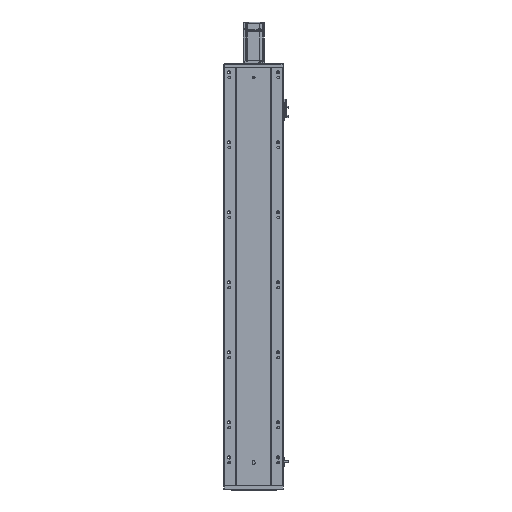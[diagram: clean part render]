
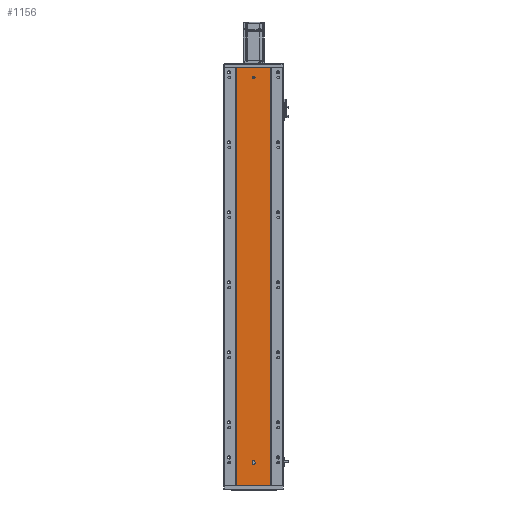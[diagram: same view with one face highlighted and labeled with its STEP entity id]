
A CAD part, front view. The second image highlights one B-rep face of the part: STEP entity #1156.
In plain terms, the highlighted planar face has unit normal (0, -1, 0).
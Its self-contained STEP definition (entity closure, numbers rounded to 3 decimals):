
#108 = DIRECTION ( 'NONE',  ( 0., -1., 0. ) ) ;
#112 = EDGE_CURVE ( 'NONE', #33330, #65255, #42202, .T. ) ;
#1156 = ADVANCED_FACE ( 'NONE', ( #51319, #13394, #30165 ), #16349, .F. ) ;
#2211 = ORIENTED_EDGE ( 'NONE', *, *, #19401, .F. ) ;
#2244 = DIRECTION ( 'NONE',  ( 0., 0., -1. ) ) ;
#3218 = CARTESIAN_POINT ( 'NONE',  ( 132.47, 79.476, 64.5 ) ) ;
#4716 = VERTEX_POINT ( 'NONE', #28763 ) ;
#7590 = LINE ( 'NONE', #49564, #48870 ) ;
#8369 = DIRECTION ( 'NONE',  ( 0., -1., 0. ) ) ;
#8595 = LINE ( 'NONE', #16939, #9404 ) ;
#8983 = EDGE_CURVE ( 'NONE', #34479, #56407, #56234, .T. ) ;
#9404 = VECTOR ( 'NONE', #54644, 1000. ) ;
#9636 = VERTEX_POINT ( 'NONE', #67468 ) ;
#10486 = CARTESIAN_POINT ( 'NONE',  ( 185.97, 79.476, 0. ) ) ;
#11828 = CIRCLE ( 'NONE', #56577, 4. ) ;
#11972 = ORIENTED_EDGE ( 'NONE', *, *, #36847, .F. ) ;
#13394 = FACE_BOUND ( 'NONE', #28721, .T. ) ;
#13535 = CARTESIAN_POINT ( 'NONE',  ( 86.97, 79.476, 796. ) ) ;
#13562 = ORIENTED_EDGE ( 'NONE', *, *, #40622, .F. ) ;
#14123 = LINE ( 'NONE', #65425, #35991 ) ;
#15660 = CARTESIAN_POINT ( 'NONE',  ( 136.47, 79.476, 1166. ) ) ;
#16344 = CARTESIAN_POINT ( 'NONE',  ( 185.97, 79.476, 796. ) ) ;
#16349 = PLANE ( 'NONE',  #30503 ) ;
#16939 = CARTESIAN_POINT ( 'NONE',  ( 0., 79.476, 1194. ) ) ;
#17669 = EDGE_LOOP ( 'NONE', ( #53897, #46839, #2211, #19654 ) ) ;
#18271 = DIRECTION ( 'NONE',  ( 0., 0., -1. ) ) ;
#18913 = ORIENTED_EDGE ( 'NONE', *, *, #61980, .F. ) ;
#19401 = EDGE_CURVE ( 'NONE', #4716, #29766, #8595, .T. ) ;
#19654 = ORIENTED_EDGE ( 'NONE', *, *, #36835, .T. ) ;
#19855 = CARTESIAN_POINT ( 'NONE',  ( 185.97, 79.476, 1194. ) ) ;
#20378 = DIRECTION ( 'NONE',  ( 0., -1., 0. ) ) ;
#20777 = AXIS2_PLACEMENT_3D ( 'NONE', #23384, #34457, #2244 ) ;
#22424 = VERTEX_POINT ( 'NONE', #51761 ) ;
#23384 = CARTESIAN_POINT ( 'NONE',  ( 136.47, 79.476, 64.5 ) ) ;
#23864 = CARTESIAN_POINT ( 'NONE',  ( 86.97, 79.476, 398. ) ) ;
#24093 = CARTESIAN_POINT ( 'NONE',  ( 86.97, 79.476, 1194. ) ) ;
#25756 = LINE ( 'NONE', #55946, #50300 ) ;
#26204 = B_SPLINE_CURVE_WITH_KNOTS ( 'NONE', 3,
 ( #24093, #13535, #23864, #35197 ),
 .UNSPECIFIED., .F., .F.,
 ( 4, 4 ),
 ( 0., 1. ),
 .UNSPECIFIED. ) ;
#27112 = CARTESIAN_POINT ( 'NONE',  ( 185.97, 79.476, 1194. ) ) ;
#28066 = DIRECTION ( 'NONE',  ( 0., 0., -1. ) ) ;
#28721 = EDGE_LOOP ( 'NONE', ( #11972, #49396 ) ) ;
#28763 = CARTESIAN_POINT ( 'NONE',  ( 86.97, 79.476, 1194. ) ) ;
#28897 = CARTESIAN_POINT ( 'NONE',  ( 185.97, 79.476, 0. ) ) ;
#29266 = CARTESIAN_POINT ( 'NONE',  ( 136.47, 79.476, 1166. ) ) ;
#29766 = VERTEX_POINT ( 'NONE', #19855 ) ;
#30165 = FACE_OUTER_BOUND ( 'NONE', #17669, .T. ) ;
#30503 = AXIS2_PLACEMENT_3D ( 'NONE', #50229, #33710, #34167 ) ;
#33330 = VERTEX_POINT ( 'NONE', #3218 ) ;
#33710 = DIRECTION ( 'NONE',  ( 0., 1., 0. ) ) ;
#34167 = DIRECTION ( 'NONE',  ( 0., 0., 1. ) ) ;
#34276 = B_SPLINE_CURVE_WITH_KNOTS ( 'NONE', 3,
 ( #27112, #16344, #43615, #10486 ),
 .UNSPECIFIED., .F., .F.,
 ( 4, 4 ),
 ( 0., 1. ),
 .UNSPECIFIED. ) ;
#34457 = DIRECTION ( 'NONE',  ( 0., -1., 0. ) ) ;
#34479 = VERTEX_POINT ( 'NONE', #56517 ) ;
#35197 = CARTESIAN_POINT ( 'NONE',  ( 86.97, 79.476, 0. ) ) ;
#35991 = VECTOR ( 'NONE', #28066, 1000. ) ;
#36530 = DIRECTION ( 'NONE',  ( 0., 0., -1. ) ) ;
#36626 = DIRECTION ( 'NONE',  ( 0., 0., -1. ) ) ;
#36702 = ORIENTED_EDGE ( 'NONE', *, *, #112, .F. ) ;
#36835 = EDGE_CURVE ( 'NONE', #4716, #63007, #26204, .T. ) ;
#36847 = EDGE_CURVE ( 'NONE', #22424, #54574, #39837, .T. ) ;
#37762 = DIRECTION ( 'NONE',  ( 0., 0., -1. ) ) ;
#39386 = DIRECTION ( 'NONE',  ( 0., 0., 1. ) ) ;
#39537 = AXIS2_PLACEMENT_3D ( 'NONE', #45394, #20378, #36626 ) ;
#39837 = CIRCLE ( 'NONE', #69128, 4. ) ;
#40189 = CARTESIAN_POINT ( 'NONE',  ( 86.97, 79.476, 0. ) ) ;
#40622 = EDGE_CURVE ( 'NONE', #56407, #33330, #14123, .T. ) ;
#41219 = VERTEX_POINT ( 'NONE', #28897 ) ;
#41720 = CARTESIAN_POINT ( 'NONE',  ( 136.47, 79.476, 67.5 ) ) ;
#42202 = CIRCLE ( 'NONE', #39537, 4. ) ;
#43615 = CARTESIAN_POINT ( 'NONE',  ( 185.97, 79.476, 398. ) ) ;
#44850 = DIRECTION ( 'NONE',  ( 1., 0., 0. ) ) ;
#45394 = CARTESIAN_POINT ( 'NONE',  ( 136.47, 79.476, 64.5 ) ) ;
#46839 = ORIENTED_EDGE ( 'NONE', *, *, #69330, .F. ) ;
#48870 = VECTOR ( 'NONE', #39386, 1000. ) ;
#49374 = ORIENTED_EDGE ( 'NONE', *, *, #58866, .F. ) ;
#49396 = ORIENTED_EDGE ( 'NONE', *, *, #64922, .F. ) ;
#49564 = CARTESIAN_POINT ( 'NONE',  ( 140.47, 79.476, 67.5 ) ) ;
#50229 = CARTESIAN_POINT ( 'NONE',  ( 0., 79.476, 1194. ) ) ;
#50300 = VECTOR ( 'NONE', #44850, 1000. ) ;
#51319 = FACE_BOUND ( 'NONE', #52444, .T. ) ;
#51761 = CARTESIAN_POINT ( 'NONE',  ( 136.47, 79.476, 1162. ) ) ;
#52444 = EDGE_LOOP ( 'NONE', ( #36702, #13562, #69413, #49374, #18913 ) ) ;
#53897 = ORIENTED_EDGE ( 'NONE', *, *, #60878, .T. ) ;
#54385 = CARTESIAN_POINT ( 'NONE',  ( 132.47, 79.476, 67.5 ) ) ;
#54574 = VERTEX_POINT ( 'NONE', #69322 ) ;
#54644 = DIRECTION ( 'NONE',  ( 1., 0., 0. ) ) ;
#55946 = CARTESIAN_POINT ( 'NONE',  ( 0., 79.476, 0. ) ) ;
#56131 = CARTESIAN_POINT ( 'NONE',  ( 136.47, 79.476, 60.5 ) ) ;
#56234 = CIRCLE ( 'NONE', #63230, 4. ) ;
#56407 = VERTEX_POINT ( 'NONE', #54385 ) ;
#56517 = CARTESIAN_POINT ( 'NONE',  ( 140.47, 79.476, 67.5 ) ) ;
#56577 = AXIS2_PLACEMENT_3D ( 'NONE', #15660, #108, #37762 ) ;
#58866 = EDGE_CURVE ( 'NONE', #9636, #34479, #7590, .T. ) ;
#60878 = EDGE_CURVE ( 'NONE', #63007, #41219, #25756, .T. ) ;
#61980 = EDGE_CURVE ( 'NONE', #65255, #9636, #62826, .T. ) ;
#62826 = CIRCLE ( 'NONE', #20777, 4. ) ;
#63007 = VERTEX_POINT ( 'NONE', #40189 ) ;
#63230 = AXIS2_PLACEMENT_3D ( 'NONE', #41720, #63523, #36530 ) ;
#63523 = DIRECTION ( 'NONE',  ( 0., -1., 0. ) ) ;
#64922 = EDGE_CURVE ( 'NONE', #54574, #22424, #11828, .T. ) ;
#65255 = VERTEX_POINT ( 'NONE', #56131 ) ;
#65425 = CARTESIAN_POINT ( 'NONE',  ( 132.47, 79.476, 67.5 ) ) ;
#67468 = CARTESIAN_POINT ( 'NONE',  ( 140.47, 79.476, 64.5 ) ) ;
#69128 = AXIS2_PLACEMENT_3D ( 'NONE', #29266, #8369, #18271 ) ;
#69322 = CARTESIAN_POINT ( 'NONE',  ( 136.47, 79.476, 1170. ) ) ;
#69330 = EDGE_CURVE ( 'NONE', #29766, #41219, #34276, .T. ) ;
#69413 = ORIENTED_EDGE ( 'NONE', *, *, #8983, .F. ) ;
